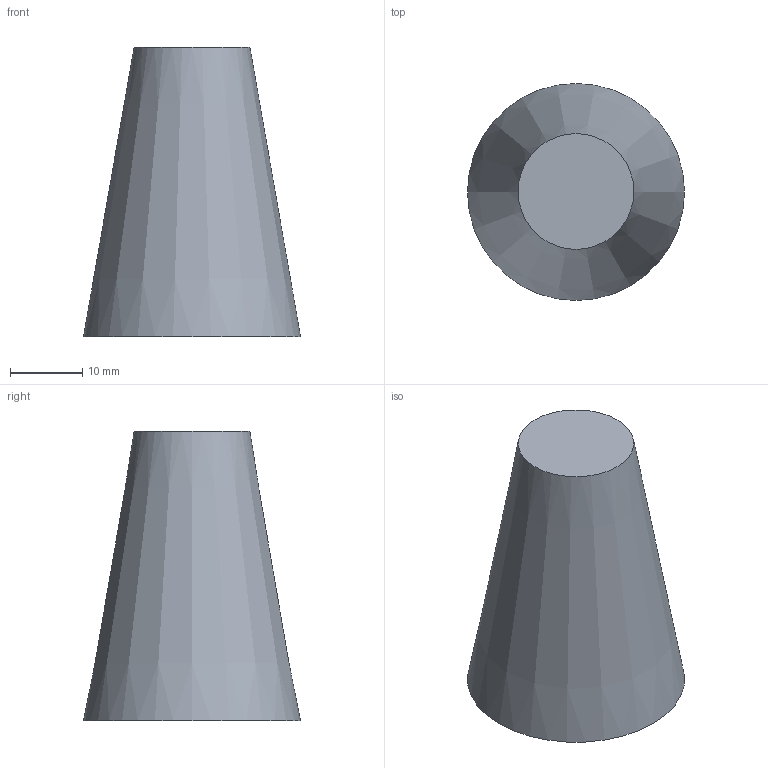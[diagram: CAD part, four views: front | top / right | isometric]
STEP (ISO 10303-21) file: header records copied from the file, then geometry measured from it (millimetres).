
FILE_DESCRIPTION(('Open CASCADE Model'),'2;1');
FILE_NAME('Open CASCADE Shape Model','2026-09-02T22:40:03',('Author'),( 'Open CASCADE'),'Open CASCADE STEP processor 7.8','Open CASCADE 7.8' ,'Unknown');
FILE_SCHEMA(('AUTOMOTIVE_DESIGN { 1 0 10303 214 1 1 1 1 }'));
Length unit declared in the file: millimetre
Products named in the file (1): Open CASCADE STEP translator 7.8 14
Bounding box: 30 x 30 x 40 mm (x, y, z)
Volume: 17132.2 mm3; surface area: 3842.1 mm2
Topology: 1 solids, 1 shells, 3 faces, 3 edges, 2 vertices
Faces by surface type: plane 2, cone 1
Entity records: 108 total; most frequent: DIRECTION 19, CARTESIAN_POINT 15, AXIS2_PLACEMENT_3D 6, ORIENTED_EDGE 6, PCURVE 6, DEFINITIONAL_REPRESENTATION 6, LINE 5, VECTOR 5
